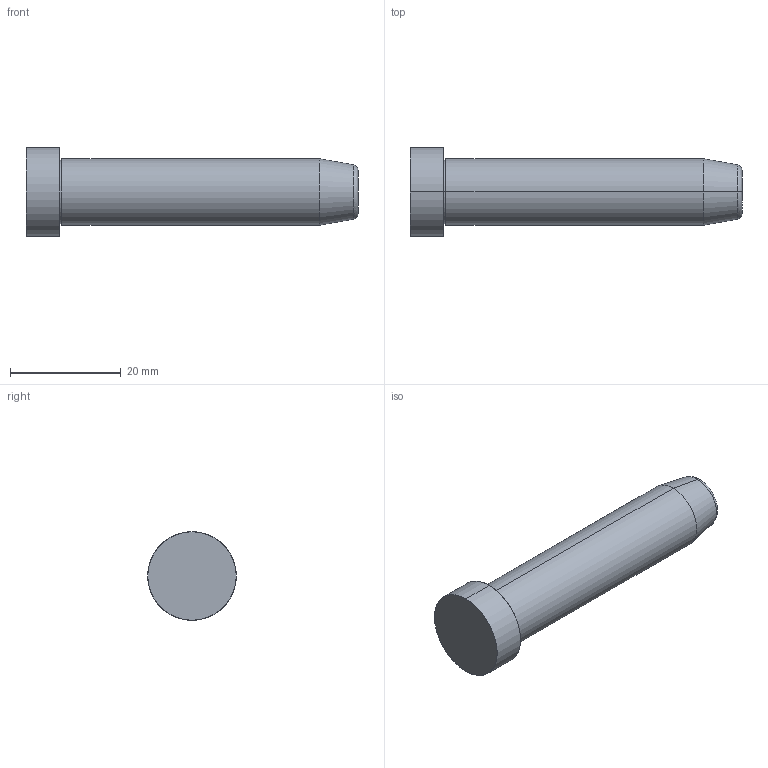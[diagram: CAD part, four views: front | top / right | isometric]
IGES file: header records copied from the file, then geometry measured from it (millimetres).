
Start section: SolidWorks IGES FILE using analytic representation for surfaces
Global section: file name: D:\zzzzz\Delta\D01 D\12\D01 D - 12x60.IGS; native system: SolidWorks 2004 by SolidWorks Corporation; preprocessor: Version 5.3; author: Hkn; date: 080326.193904; units: millimetre
Bounding box: 60 x 16 x 16 mm (x, y, z)
Surface area: 2683.1 mm2 (no closed solid volume)
Topology: 0 solids, 0 shells, 14 faces, 232 edges, 232 vertices
Faces by surface type: revolution 8, bspline 6
